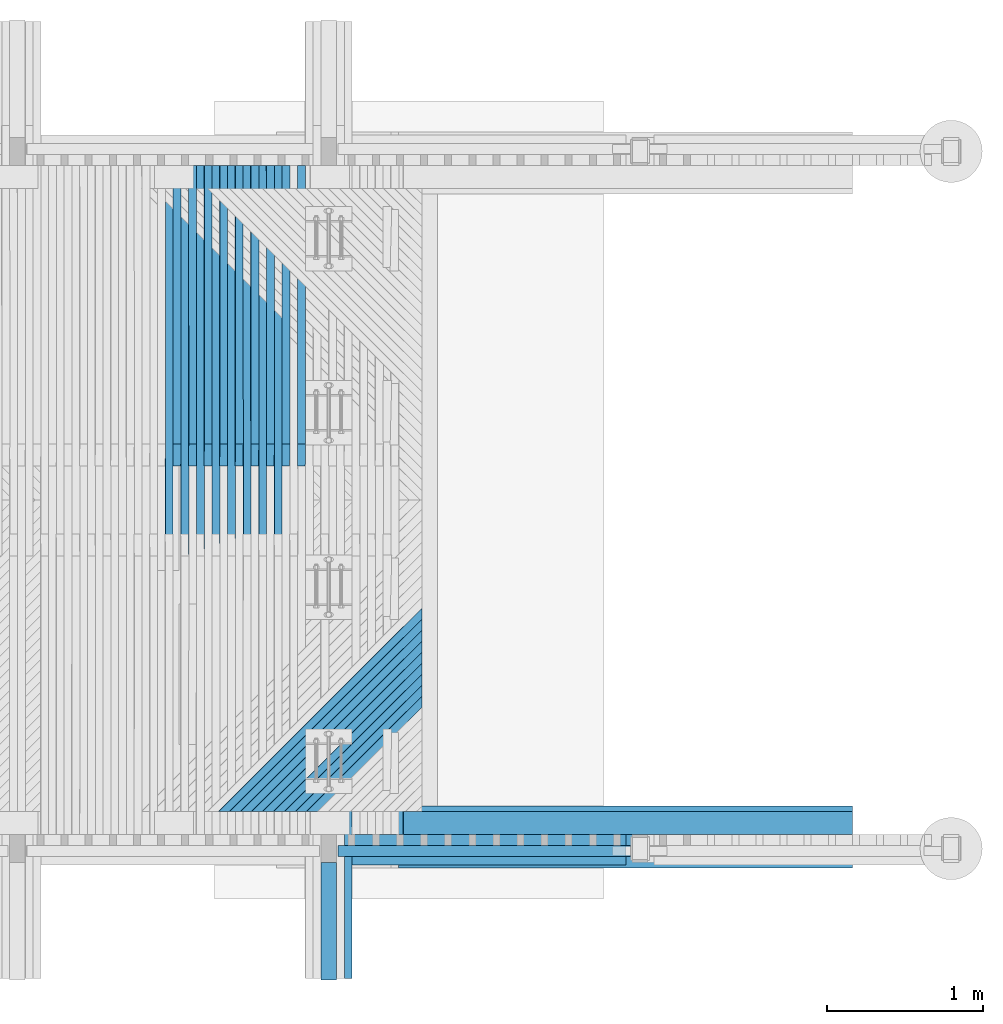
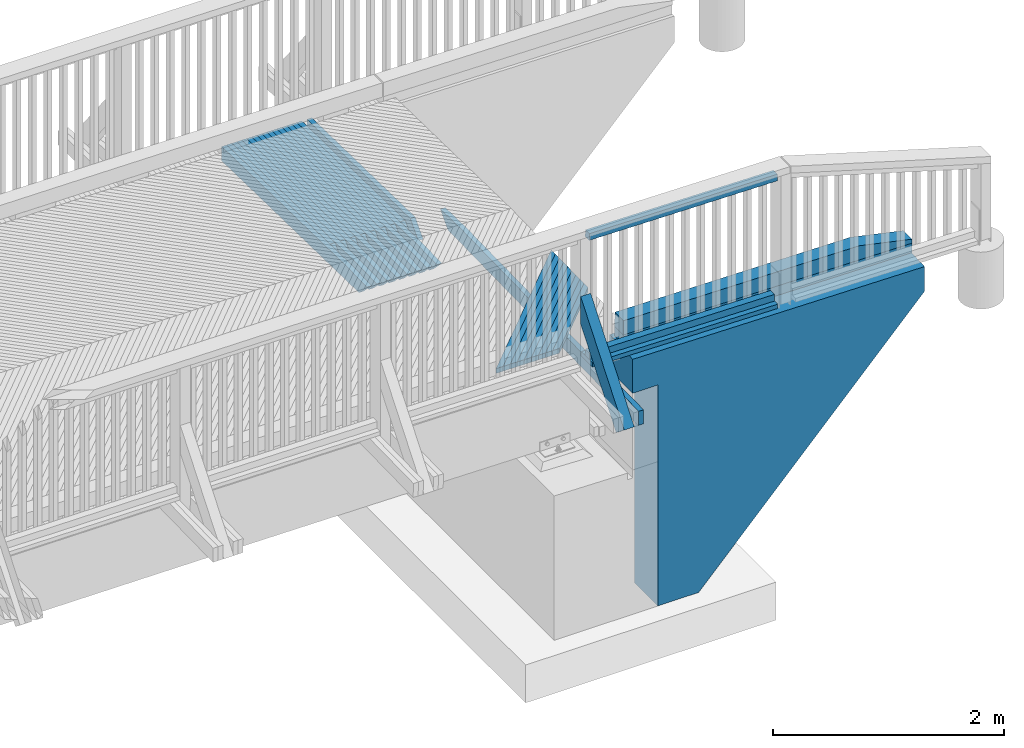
# One storey, part 45 of 53: 33 beams, 1 member.
"""IFC2X3 building model written with IfcOpenShell, lengths in millimetres."""

from ifc_helpers import new_model, si_unit, frame, origin_with_axes, place, context, subcontext, project, spatial, faceted_brep, material, type_object, element, save


model = new_model("IFC2X3")

# Units and contexts
model_context = context("Model", 3, precision=1e-05, world=origin_with_axes())
body_context = subcontext(model_context, "Body", "Model", "MODEL_VIEW")
ifc_project = project(units=[si_unit("LENGTHUNIT", "METRE", prefix="MILLI"), si_unit("AREAUNIT", "SQUARE_METRE"), si_unit("VOLUMEUNIT", "CUBIC_METRE"), si_unit("MASSUNIT", "GRAM", prefix="KILO"), si_unit("TIMEUNIT", "SECOND"), si_unit("PLANEANGLEUNIT", "RADIAN"), si_unit("SOLIDANGLEUNIT", "STERADIAN"), si_unit("THERMODYNAMICTEMPERATUREUNIT", "DEGREE_CELSIUS"), si_unit("LUMINOUSINTENSITYUNIT", "LUMEN")], contexts=[model_context])

# Site, building, storey
site_placement = place(None, origin_with_axes())
site = spatial("IfcSite", under=ifc_project, at=site_placement, Name="Undefined", CompositionType="ELEMENT")
building_placement = place(site_placement, origin_with_axes())
building = spatial("IfcBuilding", under=site, at=building_placement, Name="Undefined", CompositionType="ELEMENT")
storey_placement = place(building_placement, origin_with_axes())
storey = spatial("IfcBuildingStorey", under=building, at=storey_placement, Name="Undefined", CompositionType="ELEMENT", Elevation=0.0)

# Beams
ifc_material_1 = material(Name="TIMBER/Timber_Undefined")
beam_type_1 = type_object("IfcBeamType", Name="150*100", PredefinedType="NOTDEFINED")
beam_1_placement = place(storey_placement, frame((19364.0305880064, 40289.9999999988, 3118.6757290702), z_axis=(0.0, -1.0, 0.0), x_axis=(-0.999904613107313, 0.0, 0.0138117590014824)))
element("IfcBeam", 1, at=beam_1_placement, inside=storey, type_object=beam_type_1, material=ifc_material_1, Name="TÖRMÄYSJOHDE", ObjectType="150*100", context=body_context, shape_type="Brep", body=[
    faceted_brep([(-3.63797880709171e-12, 50.0, -75.0), (-3.63797880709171e-12, 50.0, 75.0), (2885.27521749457, 50.0, 75.0), (2885.27521749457, 50.0, -75.0), (0.0, -49.9999999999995, 75.0), (2885.27521749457, -49.9999999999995, 75.0), (0.0, -49.9999999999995, -75.0), (2885.27521749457, -49.9999999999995, -75.0)], [[[0, 1, 2, 3]], [[1, 4, 5, 2]], [[4, 6, 7, 5]], [[6, 0, 3, 7]], [[5, 7, 3, 2]], [[6, 4, 1, 0]]]),
])
beam_type_2 = type_object("IfcBeamType", Name="150*150", PredefinedType="NOTDEFINED")
beam_2_placement = place(storey_placement, frame((19366.0358819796, 40289.9999999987, 3243.66334439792), z_axis=(0.0, -1.0, 0.0), x_axis=(-0.999904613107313, 0.0, 0.0138117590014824)))
element("IfcBeam", 2, at=beam_2_placement, inside=storey, type_object=beam_type_2, material=ifc_material_1, Name="TÖRMÄYSJOHDE", ObjectType="150*150", context=body_context, shape_type="Brep", body=[
    faceted_brep([(2885.27521749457, -74.9999999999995, 75.0), (2885.27521749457, -74.9999999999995, -75.0), (2885.27521749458, 75.0, -75.0), (2885.27521749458, 75.0, 75.0), (3.63797880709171e-12, 75.0000000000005, -75.0), (3.63797880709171e-12, 75.0000000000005, 75.0), (3.63797880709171e-12, 33.1222400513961, -75.0), (3.63797880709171e-12, 33.1222400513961, 75.0), (529.511118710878, -75.0, 75.0), (529.511118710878, -75.0, -75.0)], [[[0, 1, 2, 3]], [[4, 5, 3, 2]], [[5, 4, 6, 7]], [[0, 3, 5, 7, 8]], [[1, 0, 8, 9]], [[4, 2, 1, 9, 6]], [[8, 7, 6, 9]]]),
])
ifc_material_2 = material(Name="CONCRETE/Concrete_Undefined")
beam_type_3 = type_object("IfcBeamType", Name="2800*400", PredefinedType="NOTDEFINED")
beam_3_placement = place(storey_placement, frame((16430.3400332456, 40200.0, 1712.66804762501), z_axis=(0.0140428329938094, 0.0, 0.999901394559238), x_axis=(0.999901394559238, 0.0, -0.0140428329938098)))
element("IfcBeam", 3, at=beam_3_placement, inside=storey, type_object=beam_type_3, material=ifc_material_2, Name="SIIPIMUURI", ObjectType="2800*400", context=body_context, shape_type="Brep", body=[
    faceted_brep([(5.63100911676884e-07, 200.0, 1400.0), (0.280884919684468, -200.000000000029, 1380.0), (2915.56834818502, -200.0, 1380.0), (2915.28746382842, 200.0, 1400.0), (270.457242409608, 199.999999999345, -54.8754727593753), (270.457242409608, -200.0, -54.8754727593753), (255.29098277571, -200.0, 1025.01803336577), (255.29098277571, 199.999999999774, 1025.01803336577), (288.066954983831, 200.0, -1308.75182153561), (288.066954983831, -200.0, -1308.75182153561), (697.173583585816, 200.0, -1303.00623892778), (697.173583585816, -200.0, -1303.00623892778), (2919.22031514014, 200.0, 1119.96651154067), (2919.22031514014, -200.0, 1119.96651154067), (5.31563413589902, -200.0, 1021.50732511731), (5.31563413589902, 199.999999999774, 1021.50732511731)], [[[0, 1, 2, 3]], [[4, 5, 6, 7]], [[8, 9, 5, 4]], [[10, 11, 9, 8]], [[12, 13, 11, 10]], [[13, 12, 3, 2]], [[14, 6, 5, 9, 11, 13, 2, 1]], [[7, 6, 14, 15]], [[3, 12, 10, 8, 4, 7, 15, 0]], [[15, 14, 1, 0]]]),
])

# Member
member_type = type_object("IfcMemberType", Name="180*100", PredefinedType="NOTDEFINED")
member_placement = place(storey_placement, frame((16000.0064146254, 39351.2316008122, 2900.91791762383), z_axis=(0.0, -0.783926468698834, 0.620853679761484), x_axis=(-4.01699999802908e-06, 0.620853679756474, 0.783926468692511)))
element("IfcMember", 4, at=member_placement, inside=storey, type_object=member_type, material=ifc_material_1, Name="KAIDEPYLVÄS", ObjectType="180*100", context=body_context, shape_type="Brep", body=[
    faceted_brep([(0.0, 50.0, -89.9999999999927), (0.0, 50.0, 90.0), (1214.99480886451, 50.0000000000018, 90.0000000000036), (987.716194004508, 50.0, -89.9999999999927), (0.0, -49.9999999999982, 90.0000000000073), (1214.99440716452, -49.9999999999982, 90.0000000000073), (-3.63797880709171e-12, -49.9999999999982, -90.0), (987.715792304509, -49.9999999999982, -89.9999999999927)], [[[0, 1, 2, 3]], [[1, 4, 5, 2]], [[4, 6, 7, 5]], [[6, 0, 3, 7]], [[5, 7, 3, 2]], [[6, 4, 1, 0]]]),
])

# Beams
beam_type_4 = type_object("IfcBeamType", Name="70*70", PredefinedType="NOTDEFINED")
beam_4_placement = place(storey_placement, frame((17909.4703719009, 40110.0099700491, 3186.87116342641), z_axis=(0.0, -1.0, 0.0), x_axis=(-0.999883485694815, 0.0, 0.0152648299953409)))
element("IfcBeam", 5, at=beam_4_placement, inside=storey, type_object=beam_type_4, material=ifc_material_1, Name="BEAM", ObjectType="70*70", context=body_context, shape_type="Brep", body=[
    faceted_brep([(-3.63797880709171e-12, 35.0000000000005, -35.0), (-3.63797880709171e-12, 35.0000000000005, 35.0), (1850.22135781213, 34.9999999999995, 35.0), (1850.22135781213, 34.9999999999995, -35.0), (-3.63797880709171e-12, -34.9999999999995, 35.0), (1850.22135781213, -35.0, 35.0), (-3.63797880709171e-12, -34.9999999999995, -35.0), (1850.22135781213, -35.0, -35.0)], [[[0, 1, 2, 3]], [[1, 4, 5, 2]], [[4, 6, 7, 5]], [[6, 0, 3, 7]], [[5, 7, 3, 2]], [[6, 4, 1, 0]]]),
])
beam_5_placement = place(storey_placement, frame((17939.4668764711, 40110.0099700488, 4446.41321852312), z_axis=(0.0, -1.0, 0.0), x_axis=(-0.999883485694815, 0.0, 0.0152648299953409)))
element("IfcBeam", 6, at=beam_5_placement, inside=storey, type_object=beam_type_4, material=ifc_material_1, Name="BEAM", ObjectType="70*70", context=body_context, shape_type="Brep", body=[
    faceted_brep([(-3.63797880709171e-12, 35.0000000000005, -35.0), (-3.63797880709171e-12, 35.0000000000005, 35.0), (1880.22135781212, 35.0000000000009, 35.0), (1880.22135781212, 35.0000000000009, -35.0), (-3.63797880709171e-12, -34.9999999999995, 35.0), (1880.22135781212, -35.0, 35.0), (-3.63797880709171e-12, -34.9999999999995, -35.0), (1880.22135781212, -35.0, -35.0)], [[[0, 1, 2, 3]], [[1, 4, 5, 2]], [[4, 6, 7, 5]], [[6, 0, 3, 7]], [[5, 7, 3, 2]], [[6, 4, 1, 0]]]),
])
beam_type_5 = type_object("IfcBeamType", Name="195*45", PredefinedType="NOTDEFINED")
beam_6_placement = place(storey_placement, frame((17909.6611822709, 40117.5099700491, 3129.36970699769), z_axis=(0.0, -1.0, 0.0), x_axis=(-0.999883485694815, 0.0, 0.0152648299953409)))
element("IfcBeam", 7, at=beam_6_placement, inside=storey, type_object=beam_type_5, material=ifc_material_1, Name="BEAM", ObjectType="195*45", context=body_context, shape_type="Brep", body=[
    faceted_brep([(0.0, 22.5, -97.5), (0.0, 22.5, 97.5), (1850.22135781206, 22.5, 97.5), (1850.22135781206, 22.5, -97.5), (0.0, -22.5, 97.5), (1850.22135781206, -22.5, 97.5), (0.0, -22.5, -97.5), (1850.22135781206, -22.5, -97.5)], [[[0, 1, 2, 3]], [[1, 4, 5, 2]], [[4, 6, 7, 5]], [[6, 0, 3, 7]], [[5, 7, 3, 2]], [[6, 4, 1, 0]]]),
])
beam_type_6 = type_object("IfcBeamType", Name="50*50", PredefinedType="NOTDEFINED")
beam_7_placement = place(storey_placement, frame((17895.3052888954, 42364.5001003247, 3154.80495489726), z_axis=(0.706807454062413, -0.706981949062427, -0.0244897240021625), x_axis=(-0.707254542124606, -0.706948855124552, -0.00378535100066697)))
element("IfcBeam", 8, at=beam_7_placement, inside=storey, type_object=beam_type_6, material=ifc_material_1, Name="BEAM", ObjectType="50*50", context=body_context, shape_type="Brep", body=[
    faceted_brep([(2802.92643296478, -25.0, 25.0), (2852.92877373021, -25.0000000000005, -25.0000000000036), (2854.34301907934, 24.9999999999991, -25.0000000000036), (2804.34067830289, 25.0, 25.0000000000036), (1805.95401836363, 24.9999999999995, -24.9999999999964), (1855.92241106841, 24.9999999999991, 25.0), (1856.95717342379, -25.0, 24.9999999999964), (1806.98878071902, -25.0000000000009, -24.9999999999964)], [[[0, 1, 2, 3]], [[3, 2, 4, 5]], [[0, 3, 5, 6]], [[1, 0, 6, 7]], [[2, 1, 7, 4]], [[6, 5, 4, 7]]]),
])
beam_8_placement = place(storey_placement, frame((17824.5905388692, 42364.5001003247, 3155.96311087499), z_axis=(0.706810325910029, -0.706981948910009, -0.0244067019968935), x_axis=(-0.707254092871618, -0.706948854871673, -0.00386842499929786)))
element("IfcBeam", 9, at=beam_8_placement, inside=storey, type_object=beam_type_6, material=ifc_material_1, Name="BEAM", ObjectType="50*50", context=body_context, shape_type="Brep", body=[
    faceted_brep([(2802.92643296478, -25.0, 25.0), (2852.92877373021, -25.0000000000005, -25.0000000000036), (2854.34301907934, 24.9999999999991, -25.0000000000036), (2804.34067830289, 25.0, 25.0000000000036), (1705.97428604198, 24.9999999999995, -25.0000000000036), (1755.94291351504, 24.9999999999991, 24.9999999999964), (1756.96937511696, -25.0, 24.9999999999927), (1707.00074764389, -25.0, -25.0000000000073)], [[[0, 1, 2, 3]], [[3, 2, 4, 5]], [[0, 3, 5, 6]], [[1, 0, 6, 7]], [[2, 1, 7, 4]], [[6, 5, 4, 7]]]),
])
beam_9_placement = place(storey_placement, frame((17753.8756532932, 42364.5001003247, 3157.11296064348), z_axis=(0.706813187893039, -0.706981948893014, -0.0243236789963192), x_axis=(-0.707253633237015, -0.706948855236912, -0.00395150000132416)))
element("IfcBeam", 10, at=beam_9_placement, inside=storey, type_object=beam_type_6, material=ifc_material_1, Name="BEAM", ObjectType="50*50", context=body_context, shape_type="Brep", body=[
    faceted_brep([(2802.92643296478, -25.0, 25.0), (2852.92877373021, -25.0000000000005, -25.0000000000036), (2854.34301907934, 24.9999999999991, -25.0000000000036), (2804.34067830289, 25.0, 25.0000000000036), (1605.99425901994, 25.0, -25.0), (1655.96312129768, 25.0000000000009, 25.0000000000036), (1656.98128205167, -25.0, 25.0000000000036), (1607.01241977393, -24.9999999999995, -25.0000000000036)], [[[0, 1, 2, 3]], [[3, 2, 4, 5]], [[0, 3, 5, 6]], [[1, 0, 6, 7]], [[2, 1, 7, 4]], [[6, 5, 4, 7]]]),
])
beam_10_placement = place(storey_placement, frame((17683.1606331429, 42364.5001003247, 3158.25450418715), z_axis=(0.706816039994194, -0.706981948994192, -0.0242406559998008), x_axis=(-0.707253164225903, -0.706948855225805, -0.0040345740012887)))
element("IfcBeam", 11, at=beam_10_placement, inside=storey, type_object=beam_type_6, material=ifc_material_1, Name="BEAM", ObjectType="50*50", context=body_context, shape_type="Brep", body=[
    faceted_brep([(2802.92643296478, -25.0, 25.0), (2852.92877373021, -25.0000000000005, -25.0000000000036), (2854.34301907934, 24.9999999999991, -25.0000000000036), (2804.34067830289, 25.0, 25.0000000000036), (1506.01393205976, 25.0, -24.9999999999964), (1555.98302910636, 25.0, 25.0000000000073), (1556.99288906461, -25.0000000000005, 25.0000000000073), (1507.02379201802, -25.0, -25.0)], [[[0, 1, 2, 3]], [[3, 2, 4, 5]], [[0, 3, 5, 6]], [[1, 0, 6, 7]], [[2, 1, 7, 4]], [[6, 5, 4, 7]]]),
])
beam_11_placement = place(storey_placement, frame((17612.4454793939, 42364.5001003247, 3159.38774149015), z_axis=(0.706818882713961, -0.706981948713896, -0.0241576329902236), x_axis=(-0.70725268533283, -0.706948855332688, -0.00411764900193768)))
element("IfcBeam", 12, at=beam_11_placement, inside=storey, type_object=beam_type_6, material=ifc_material_1, Name="BEAM", ObjectType="50*50", context=body_context, shape_type="Brep", body=[
    faceted_brep([(2802.92643296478, -25.0, 25.0), (2852.92877373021, -25.0000000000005, -25.0000000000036), (2854.34301907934, 24.9999999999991, -25.0000000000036), (2804.34067830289, 25.0, 25.0000000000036), (1406.03330360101, 25.0, -25.0), (1456.00263545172, 24.9999999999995, 25.0000000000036), (1457.0041945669, -25.0000000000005, 25.0000000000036), (1407.03486271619, -25.0, -25.0)], [[[0, 1, 2, 3]], [[3, 2, 4, 5]], [[0, 3, 5, 6]], [[1, 0, 6, 7]], [[2, 1, 7, 4]], [[6, 5, 4, 7]]]),
])
beam_12_placement = place(storey_placement, frame((17541.730193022, 42364.5001003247, 3160.51267253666), z_axis=(0.706821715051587, -0.706981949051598, -0.0240746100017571), x_axis=(-0.707252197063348, -0.706948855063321, -0.00420072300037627)))
element("IfcBeam", 13, at=beam_12_placement, inside=storey, type_object=beam_type_6, material=ifc_material_1, Name="BEAM", ObjectType="50*50", context=body_context, shape_type="Brep", body=[
    faceted_brep([(2802.92643296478, -25.0, 25.0), (2852.92877373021, -25.0000000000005, -25.0000000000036), (2854.34301907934, 24.9999999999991, -25.0000000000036), (2804.34067830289, 25.0, 25.0000000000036), (1306.05236988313, 25.0000000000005, -25.0000000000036), (1356.02193646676, 25.0, 25.0), (1357.01519479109, -25.0, 25.0), (1307.04562820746, -24.9999999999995, -25.0000000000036)], [[[0, 1, 2, 3]], [[3, 2, 4, 5]], [[0, 3, 5, 6]], [[1, 0, 6, 7]], [[2, 1, 7, 4]], [[6, 5, 4, 7]]]),
])
beam_13_placement = place(storey_placement, frame((17471.0147750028, 42364.5001003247, 3161.6292973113), z_axis=(0.706824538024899, -0.706981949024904, -0.0239915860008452), x_axis=(-0.7072516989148, -0.706948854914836, -0.004283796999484)))
element("IfcBeam", 14, at=beam_13_placement, inside=storey, type_object=beam_type_6, material=ifc_material_1, Name="BEAM", ObjectType="50*50", context=body_context, shape_type="Brep", body=[
    faceted_brep([(2802.92643296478, -25.0, 25.0), (2852.92877373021, -25.0000000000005, -25.0000000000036), (2854.34301907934, 24.9999999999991, -25.0000000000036), (2804.34067830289, 25.0, 25.0000000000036), (1206.07112918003, 24.9999999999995, -25.0), (1256.04093053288, 25.0000000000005, 24.9999999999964), (1257.02588801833, -25.0, 24.9999999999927), (1207.05608666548, -25.0, -25.0)], [[[0, 1, 2, 3]], [[3, 2, 4, 5]], [[0, 3, 5, 6]], [[1, 0, 6, 7]], [[2, 1, 7, 4]], [[6, 5, 4, 7]]]),
])
beam_14_placement = place(storey_placement, frame((17400.2992263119, 42364.5001003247, 3162.73761579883), z_axis=(0.706827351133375, -0.706981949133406, -0.0239085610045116), x_axis=(-0.707251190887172, -0.70694885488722, -0.00436687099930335)))
element("IfcBeam", 15, at=beam_14_placement, inside=storey, type_object=beam_type_6, material=ifc_material_1, Name="BEAM", ObjectType="50*50", context=body_context, shape_type="Brep", body=[
    faceted_brep([(2802.92643296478, -25.0, 25.0), (2852.92877373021, -25.0000000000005, -25.0000000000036), (2854.34301907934, 24.9999999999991, -25.0000000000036), (2804.34067830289, 25.0, 25.0000000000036), (1106.08957869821, 24.9999999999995, -25.0000000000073), (1156.05961482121, 24.9999999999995, 24.9999999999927), (1157.03627142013, -25.0000000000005, 24.9999999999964), (1107.06623529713, -25.0, -25.0000000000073)], [[[0, 1, 2, 3]], [[3, 2, 4, 5]], [[0, 3, 5, 6]], [[1, 0, 6, 7]], [[2, 1, 7, 4]], [[6, 5, 4, 7]]]),
])
beam_15_placement = place(storey_placement, frame((17329.583547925, 42364.5001003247, 3163.83762798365), z_axis=(0.706830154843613, -0.706981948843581, -0.0238255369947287), x_axis=(-0.707250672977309, -0.706948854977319, -0.00444994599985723)))
element("IfcBeam", 16, at=beam_15_placement, inside=storey, type_object=beam_type_6, material=ifc_material_1, Name="BEAM", ObjectType="50*50", context=body_context, shape_type="Brep", body=[
    faceted_brep([(2802.92643296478, -25.0, 25.0), (2852.92877373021, -25.0000000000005, -25.0000000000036), (2854.34301907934, 24.9999999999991, -25.0000000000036), (2804.34067830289, 25.0, 25.0000000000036), (1006.1077155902, 24.9999999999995, -25.0000000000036), (1056.07798651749, 24.9999999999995, 24.9999999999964), (1057.04634223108, -25.0000000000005, 24.9999999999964), (1007.07607130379, -25.0000000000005, -25.0000000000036)], [[[0, 1, 2, 3]], [[3, 2, 4, 5]], [[0, 3, 5, 6]], [[1, 0, 6, 7]], [[2, 1, 7, 4]], [[6, 5, 4, 7]]]),
])
beam_type_7 = type_object("IfcBeamType", Name="150*50", PredefinedType="NOTDEFINED")
beam_16_placement = place(storey_placement, frame((16124.2820196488, 39292.7893475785, 3019.83126809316), z_axis=(0.0134985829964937, -0.0199960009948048, 0.999708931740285), x_axis=(0.0002685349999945, 0.999800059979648, 0.0199941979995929)))
element("IfcBeam", 17, at=beam_16_placement, inside=storey, type_object=beam_type_7, material=ifc_material_1, Name="BEAM", ObjectType="150*50", context=body_context, shape_type="Brep", body=[
    faceted_brep([(1.28420651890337e-08, -24.9999999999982, -74.9999999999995), (-1.28347892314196e-08, -24.9999999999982, 75.0), (-1.28347892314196e-08, 25.0, 75.0), (1.28420651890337e-08, 25.0000000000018, -75.0), (3298.90497884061, 24.9999999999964, -74.9999999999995), (3298.90492234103, -25.0, -74.9999999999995), (3434.49245887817, -25.0, 60.5875365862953), (3074.32497546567, -25.0000000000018, 75.0000000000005), (3074.32503673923, 25.0000000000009, 75.0), (3434.49251531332, 24.9999999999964, 60.5875365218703)], [[[0, 1, 2, 3]], [[0, 3, 4, 5]], [[1, 0, 5, 6, 7]], [[2, 1, 7, 8]], [[4, 3, 2, 8, 9]], [[5, 4, 9, 6]], [[8, 7, 6, 9]]]),
])
beam_17_placement = place(storey_placement, frame((15824.7332279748, 44513.4953923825, 3042.27828425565), z_axis=(0.0130016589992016, 0.0199960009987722, 0.999715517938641), x_axis=(0.000260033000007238, -0.999800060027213, 0.0199943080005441)))
element("IfcBeam", 18, at=beam_17_placement, inside=storey, type_object=beam_type_7, material=ifc_material_1, Name="BEAM", ObjectType="150*50", context=body_context, shape_type="Brep", body=[
    faceted_brep([(1.28420651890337e-08, -24.9999999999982, -74.9999999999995), (-1.28347892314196e-08, -24.9999999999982, 75.0), (-1.28347892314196e-08, 25.0, 75.0), (1.28420651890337e-08, 25.0000000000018, -75.0), (1789.96936408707, 24.9999999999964, 75.0000000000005), (1928.42646328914, 24.9999999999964, -74.9999999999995), (1928.42646353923, -25.0000000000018, -75.0), (1789.96936433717, -25.0000000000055, 74.9999999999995)], [[[0, 1, 2, 3]], [[3, 2, 4, 5]], [[0, 3, 5, 6]], [[1, 0, 6, 7]], [[2, 1, 7, 4]], [[5, 4, 7, 6]]]),
])
beam_18_placement = place(storey_placement, frame((15674.7056284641, 44513.4953923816, 3044.21225802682), z_axis=(0.012669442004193, 0.0199960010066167, 0.999719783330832), x_axis=(0.000253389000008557, -0.99980006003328, 0.0199943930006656)))
element("IfcBeam", 19, at=beam_18_placement, inside=storey, type_object=beam_type_7, material=ifc_material_1, Name="BEAM", ObjectType="150*50", context=body_context, shape_type="Brep", body=[
    faceted_brep([(1.28420651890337e-08, -24.9999999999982, -74.9999999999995), (1.28420651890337e-08, 25.0000000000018, -75.0), (2375.00494422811, 25.0000000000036, -75.0), (2375.0049444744, -24.9999999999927, -74.9999999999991), (-1.28347892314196e-08, -24.9999999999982, 75.0), (-1.28347892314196e-08, 25.0, 75.0), (2150.42515052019, 25.0000000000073, 75.0), (2510.59248715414, 25.0000000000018, 60.5875433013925), (2510.5924871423, -24.9999999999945, 60.5875430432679), (2150.42514405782, -24.9999999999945, 75.0)], [[[0, 1, 2, 3]], [[0, 4, 5, 1]], [[2, 1, 5, 6, 7]], [[3, 2, 7, 8]], [[4, 0, 3, 8, 9]], [[5, 4, 9, 6]], [[8, 7, 6, 9]]]),
])
beam_19_placement = place(storey_placement, frame((15724.7215391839, 44513.4953923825, 3043.57009676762), z_axis=(0.0128355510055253, 0.019996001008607, 0.999717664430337), x_axis=(0.000256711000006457, -0.999800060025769, 0.0199943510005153)))
element("IfcBeam", 20, at=beam_19_placement, inside=storey, type_object=beam_type_7, material=ifc_material_1, Name="BEAM", ObjectType="150*50", context=body_context, shape_type="Brep", body=[
    faceted_brep([(1.28420651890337e-08, -24.9999999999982, -74.9999999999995), (-1.28347892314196e-08, -24.9999999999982, 75.0), (-1.28347892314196e-08, 25.0, 75.0), (1.28420651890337e-08, 25.0000000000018, -75.0), (1789.96936408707, 24.9999999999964, 75.0000000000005), (1928.42646328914, 24.9999999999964, -74.9999999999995), (1928.42646353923, -25.0000000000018, -75.0), (1789.96936433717, -25.0000000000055, 74.9999999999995)], [[[0, 1, 2, 3]], [[3, 2, 4, 5]], [[0, 3, 5, 6]], [[1, 0, 6, 7]], [[2, 1, 7, 4]], [[5, 4, 7, 6]]]),
])
beam_20_placement = place(storey_placement, frame((15574.6936204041, 44513.4953923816, 3045.47914262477), z_axis=(0.0125033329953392, 0.0199960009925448, 0.999721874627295), x_axis=(0.000250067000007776, -0.999800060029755, 0.019994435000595)))
element("IfcBeam", 21, at=beam_20_placement, inside=storey, type_object=beam_type_7, material=ifc_material_1, Name="BEAM", ObjectType="150*50", context=body_context, shape_type="Brep", body=[
    faceted_brep([(1.28420651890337e-08, -24.9999999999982, -74.9999999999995), (1.28420651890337e-08, 25.0000000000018, -75.0), (2375.00494422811, 25.0000000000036, -75.0), (2375.0049444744, -24.9999999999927, -74.9999999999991), (-1.28347892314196e-08, -24.9999999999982, 75.0), (-1.28347892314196e-08, 25.0, 75.0), (2150.42515052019, 25.0000000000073, 75.0), (2510.59248715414, 25.0000000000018, 60.5875433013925), (2510.5924871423, -24.9999999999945, 60.5875430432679), (2150.42514405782, -24.9999999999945, 75.0)], [[[0, 1, 2, 3]], [[0, 4, 5, 1]], [[2, 1, 5, 6, 7]], [[3, 2, 7, 8]], [[4, 0, 3, 8, 9]], [[5, 4, 9, 6]], [[8, 7, 6, 9]]]),
])
beam_21_placement = place(storey_placement, frame((15624.7096371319, 44513.4953923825, 3044.8452917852), z_axis=(0.012669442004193, 0.0199960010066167, 0.999719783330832), x_axis=(0.000253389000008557, -0.99980006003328, 0.0199943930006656)))
element("IfcBeam", 22, at=beam_21_placement, inside=storey, type_object=beam_type_7, material=ifc_material_1, Name="BEAM", ObjectType="150*50", context=body_context, shape_type="Brep", body=[
    faceted_brep([(1.28420651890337e-08, -24.9999999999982, -74.9999999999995), (-1.28347892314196e-08, -24.9999999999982, 75.0), (-1.28347892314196e-08, 25.0, 75.0), (1.28420651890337e-08, 25.0000000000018, -75.0), (1789.96936408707, 24.9999999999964, 75.0000000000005), (1928.42646328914, 24.9999999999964, -74.9999999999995), (1928.42646353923, -25.0000000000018, -75.0), (1789.96936433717, -25.0000000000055, 74.9999999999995)], [[[0, 1, 2, 3]], [[3, 2, 4, 5]], [[0, 3, 5, 6]], [[1, 0, 6, 7]], [[2, 1, 7, 4]], [[5, 4, 7, 6]]]),
])
beam_22_placement = place(storey_placement, frame((15474.6814032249, 44513.4953923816, 3046.72940967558), z_axis=(0.0123372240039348, 0.0199960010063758, 0.999723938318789), x_axis=(0.000246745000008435, -0.999800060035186, 0.0199944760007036)))
element("IfcBeam", 23, at=beam_22_placement, inside=storey, type_object=beam_type_7, material=ifc_material_1, Name="BEAM", ObjectType="150*50", context=body_context, shape_type="Brep", body=[
    faceted_brep([(1.28420651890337e-08, -24.9999999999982, -74.9999999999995), (1.28420651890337e-08, 25.0000000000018, -75.0), (2375.00494422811, 25.0000000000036, -75.0), (2375.0049444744, -24.9999999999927, -74.9999999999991), (-1.28347892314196e-08, -24.9999999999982, 75.0), (-1.28347892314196e-08, 25.0, 75.0), (2150.42515052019, 25.0000000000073, 75.0), (2510.59248715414, 25.0000000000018, 60.5875433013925), (2510.5924871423, -24.9999999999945, 60.5875430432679), (2150.42514405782, -24.9999999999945, 75.0)], [[[0, 1, 2, 3]], [[0, 4, 5, 1]], [[2, 1, 5, 6, 7]], [[3, 2, 7, 8]], [[4, 0, 3, 8, 9]], [[5, 4, 9, 6]], [[8, 7, 6, 9]]]),
])
beam_23_placement = place(storey_placement, frame((15524.6975245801, 44513.4953923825, 3046.10386927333), z_axis=(0.0125033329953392, 0.0199960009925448, 0.999721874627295), x_axis=(0.000250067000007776, -0.999800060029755, 0.019994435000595)))
element("IfcBeam", 24, at=beam_23_placement, inside=storey, type_object=beam_type_7, material=ifc_material_1, Name="BEAM", ObjectType="150*50", context=body_context, shape_type="Brep", body=[
    faceted_brep([(1.28420651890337e-08, -24.9999999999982, -74.9999999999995), (-1.28347892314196e-08, -24.9999999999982, 75.0), (-1.28347892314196e-08, 25.0, 75.0), (1.28420651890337e-08, 25.0000000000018, -75.0), (1789.96936408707, 24.9999999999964, 75.0000000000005), (1928.42646328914, 24.9999999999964, -74.9999999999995), (1928.42646353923, -25.0000000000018, -75.0), (1789.96936433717, -25.0000000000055, 74.9999999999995)], [[[0, 1, 2, 3]], [[3, 2, 4, 5]], [[0, 3, 5, 6]], [[1, 0, 6, 7]], [[2, 1, 7, 4]], [[5, 4, 7, 6]]]),
])
beam_24_placement = place(storey_placement, frame((15374.6689796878, 44513.4953923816, 3047.96305914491), z_axis=(0.0121711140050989, 0.0199960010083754, 0.999725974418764), x_axis=(0.000243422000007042, -0.999800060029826, 0.0199945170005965)))
element("IfcBeam", 25, at=beam_24_placement, inside=storey, type_object=beam_type_7, material=ifc_material_1, Name="BEAM", ObjectType="150*50", context=body_context, shape_type="Brep", body=[
    faceted_brep([(1.28420651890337e-08, -24.9999999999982, -74.9999999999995), (1.28420651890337e-08, 25.0000000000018, -75.0), (2375.00494422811, 25.0000000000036, -75.0), (2375.0049444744, -24.9999999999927, -74.9999999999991), (-1.28347892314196e-08, -24.9999999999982, 75.0), (-1.28347892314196e-08, 25.0, 75.0), (2150.42515052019, 25.0000000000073, 75.0), (2510.59248715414, 25.0000000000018, 60.5875433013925), (2510.5924871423, -24.9999999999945, 60.5875430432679), (2150.42514405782, -24.9999999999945, 75.0)], [[[0, 1, 2, 3]], [[0, 4, 5, 1]], [[2, 1, 5, 6, 7]], [[3, 2, 7, 8]], [[4, 0, 3, 8, 9]], [[5, 4, 9, 6]], [[8, 7, 6, 9]]]),
])
beam_25_placement = place(storey_placement, frame((15424.6852042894, 44513.4953923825, 3047.34582919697), z_axis=(0.0123372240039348, 0.0199960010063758, 0.999723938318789), x_axis=(0.000246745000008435, -0.999800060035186, 0.0199944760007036)))
element("IfcBeam", 26, at=beam_25_placement, inside=storey, type_object=beam_type_7, material=ifc_material_1, Name="BEAM", ObjectType="150*50", context=body_context, shape_type="Brep", body=[
    faceted_brep([(1.28420651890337e-08, -24.9999999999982, -74.9999999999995), (-1.28347892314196e-08, -24.9999999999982, 75.0), (-1.28347892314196e-08, 25.0, 75.0), (1.28420651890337e-08, 25.0000000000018, -75.0), (1789.96936408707, 24.9999999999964, 75.0000000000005), (1928.42646328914, 24.9999999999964, -74.9999999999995), (1928.42646353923, -25.0000000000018, -75.0), (1789.96936433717, -25.0000000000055, 74.9999999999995)], [[[0, 1, 2, 3]], [[3, 2, 4, 5]], [[0, 3, 5, 6]], [[1, 0, 6, 7]], [[2, 1, 7, 4]], [[5, 4, 7, 6]]]),
])
beam_26_placement = place(storey_placement, frame((15274.6563525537, 44513.4953923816, 3049.1800909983), z_axis=(0.0120050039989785, 0.0199960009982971, 0.999727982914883), x_axis=(0.000240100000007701, -0.999800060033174, 0.0199945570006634)))
element("IfcBeam", 27, at=beam_26_placement, inside=storey, type_object=beam_type_7, material=ifc_material_1, Name="BEAM", ObjectType="150*50", context=body_context, shape_type="Brep", body=[
    faceted_brep([(1.28420651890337e-08, -24.9999999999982, -74.9999999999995), (1.28420651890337e-08, 25.0000000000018, -75.0), (2375.00494422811, 25.0000000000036, -75.0), (2375.0049444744, -24.9999999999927, -74.9999999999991), (-1.28347892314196e-08, -24.9999999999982, 75.0), (-1.28347892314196e-08, 25.0, 75.0), (2150.42515052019, 25.0000000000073, 75.0), (2510.59248715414, 25.0000000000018, 60.5875433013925), (2510.5924871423, -24.9999999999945, 60.5875430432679), (2150.42514405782, -24.9999999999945, 75.0)], [[[0, 1, 2, 3]], [[0, 4, 5, 1]], [[2, 1, 5, 6, 7]], [[3, 2, 7, 8]], [[4, 0, 3, 8, 9]], [[5, 4, 9, 6]], [[8, 7, 6, 9]]]),
])
beam_27_placement = place(storey_placement, frame((15324.672679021, 44513.4953923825, 3048.57117152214), z_axis=(0.0121711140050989, 0.0199960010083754, 0.999725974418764), x_axis=(0.000243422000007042, -0.999800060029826, 0.0199945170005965)))
element("IfcBeam", 28, at=beam_27_placement, inside=storey, type_object=beam_type_7, material=ifc_material_1, Name="BEAM", ObjectType="150*50", context=body_context, shape_type="Brep", body=[
    faceted_brep([(1.28420651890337e-08, -24.9999999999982, -74.9999999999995), (-1.28347892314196e-08, -24.9999999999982, 75.0), (-1.28347892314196e-08, 25.0, 75.0), (1.28420651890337e-08, 25.0000000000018, -75.0), (1789.96936408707, 24.9999999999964, 75.0000000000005), (1928.42646328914, 24.9999999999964, -74.9999999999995), (1928.42646353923, -25.0000000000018, -75.0), (1789.96936433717, -25.0000000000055, 74.9999999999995)], [[[0, 1, 2, 3]], [[3, 2, 4, 5]], [[0, 3, 5, 6]], [[1, 0, 6, 7]], [[2, 1, 7, 4]], [[5, 4, 7, 6]]]),
])
beam_28_placement = place(storey_placement, frame((15174.6435245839, 44513.4953923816, 3050.38050520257), z_axis=(0.0118388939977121, 0.0199960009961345, 0.999729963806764), x_axis=(0.0002367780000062, -0.999800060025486, 0.0199945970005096)))
element("IfcBeam", 29, at=beam_28_placement, inside=storey, type_object=beam_type_7, material=ifc_material_1, Name="BEAM", ObjectType="150*50", context=body_context, shape_type="Brep", body=[
    faceted_brep([(1.28420651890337e-08, -24.9999999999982, -74.9999999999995), (1.28420651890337e-08, 25.0000000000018, -75.0), (2375.00494422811, 25.0000000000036, -75.0), (2375.0049444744, -24.9999999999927, -74.9999999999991), (-1.28347892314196e-08, -24.9999999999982, 75.0), (-1.28347892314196e-08, 25.0, 75.0), (2150.42515052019, 25.0000000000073, 75.0), (2510.59248715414, 25.0000000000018, 60.5875433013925), (2510.5924871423, -24.9999999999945, 60.5875430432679), (2150.42514405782, -24.9999999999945, 75.0)], [[[0, 1, 2, 3]], [[0, 4, 5, 1]], [[2, 1, 5, 6, 7]], [[3, 2, 7, 8]], [[4, 0, 3, 8, 9]], [[5, 4, 9, 6]], [[8, 7, 6, 9]]]),
])
beam_29_placement = place(storey_placement, frame((15224.659951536, 44513.4953923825, 3049.77989621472), z_axis=(0.0120050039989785, 0.0199960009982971, 0.999727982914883), x_axis=(0.000240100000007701, -0.999800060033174, 0.0199945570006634)))
element("IfcBeam", 30, at=beam_29_placement, inside=storey, type_object=beam_type_7, material=ifc_material_1, Name="BEAM", ObjectType="150*50", context=body_context, shape_type="Brep", body=[
    faceted_brep([(1.28420651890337e-08, -24.9999999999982, -74.9999999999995), (-1.28347892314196e-08, -24.9999999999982, 75.0), (-1.28347892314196e-08, 25.0, 75.0), (1.28420651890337e-08, 25.0000000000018, -75.0), (1789.96936408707, 24.9999999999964, 75.0000000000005), (1928.42646328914, 24.9999999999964, -74.9999999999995), (1928.42646353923, -25.0000000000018, -75.0), (1789.96936433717, -25.0000000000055, 74.9999999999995)], [[[0, 1, 2, 3]], [[3, 2, 4, 5]], [[0, 3, 5, 6]], [[1, 0, 6, 7]], [[2, 1, 7, 4]], [[5, 4, 7, 6]]]),
])
beam_30_placement = place(storey_placement, frame((15074.6304985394, 44513.4953923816, 3051.56430172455), z_axis=(0.0116727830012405, 0.0199960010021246, 0.999731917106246), x_axis=(0.000233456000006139, -0.999800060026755, 0.0199946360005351)))
element("IfcBeam", 31, at=beam_30_placement, inside=storey, type_object=beam_type_7, material=ifc_material_1, Name="BEAM", ObjectType="150*50", context=body_context, shape_type="Brep", body=[
    faceted_brep([(1.28420651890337e-08, -24.9999999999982, -74.9999999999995), (1.28420651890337e-08, 25.0000000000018, -75.0), (2375.00494422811, 25.0000000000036, -75.0), (2375.0049444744, -24.9999999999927, -74.9999999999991), (-1.28347892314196e-08, -24.9999999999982, 75.0), (-1.28347892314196e-08, 25.0, 75.0), (2150.42515052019, 25.0000000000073, 75.0), (2510.59248715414, 25.0000000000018, 60.5875433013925), (2510.5924871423, -24.9999999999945, 60.5875430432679), (2150.42514405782, -24.9999999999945, 75.0)], [[[0, 1, 2, 3]], [[0, 4, 5, 1]], [[2, 1, 5, 6, 7]], [[3, 2, 7, 8]], [[4, 0, 3, 8, 9]], [[5, 4, 9, 6]], [[8, 7, 6, 9]]]),
])
beam_31_placement = place(storey_placement, frame((15124.6470245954, 44513.4953923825, 3050.97200324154), z_axis=(0.0118388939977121, 0.0199960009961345, 0.999729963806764), x_axis=(0.0002367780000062, -0.999800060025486, 0.0199945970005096)))
element("IfcBeam", 32, at=beam_31_placement, inside=storey, type_object=beam_type_7, material=ifc_material_1, Name="BEAM", ObjectType="150*50", context=body_context, shape_type="Brep", body=[
    faceted_brep([(1.28420651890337e-08, -24.9999999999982, -74.9999999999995), (-1.28347892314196e-08, -24.9999999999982, 75.0), (-1.28347892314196e-08, 25.0, 75.0), (1.28420651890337e-08, 25.0000000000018, -75.0), (1789.96936408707, 24.9999999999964, 75.0000000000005), (1928.42646328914, 24.9999999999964, -74.9999999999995), (1928.42646353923, -25.0000000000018, -75.0), (1789.96936433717, -25.0000000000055, 74.9999999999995)], [[[0, 1, 2, 3]], [[3, 2, 4, 5]], [[0, 3, 5, 6]], [[1, 0, 6, 7]], [[2, 1, 7, 4]], [[5, 4, 7, 6]]]),
])
beam_32_placement = place(storey_placement, frame((14974.6172771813, 44513.4953923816, 3052.73148053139), z_axis=(0.0115066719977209, 0.0199960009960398, 0.999733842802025), x_axis=(0.00023013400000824, -0.999800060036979, 0.0199946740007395)))
element("IfcBeam", 33, at=beam_32_placement, inside=storey, type_object=beam_type_7, material=ifc_material_1, Name="BEAM", ObjectType="150*50", context=body_context, shape_type="Brep", body=[
    faceted_brep([(1.28420651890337e-08, -24.9999999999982, -74.9999999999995), (1.28420651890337e-08, 25.0000000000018, -75.0), (2375.00494422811, 25.0000000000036, -75.0), (2375.0049444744, -24.9999999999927, -74.9999999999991), (-1.28347892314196e-08, -24.9999999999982, 75.0), (-1.28347892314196e-08, 25.0, 75.0), (2150.42515052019, 25.0000000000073, 75.0), (2510.59248715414, 25.0000000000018, 60.5875433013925), (2510.5924871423, -24.9999999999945, 60.5875430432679), (2150.42514405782, -24.9999999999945, 75.0)], [[[0, 1, 2, 3]], [[0, 4, 5, 1]], [[2, 1, 5, 6, 7]], [[3, 2, 7, 8]], [[4, 0, 3, 8, 9]], [[5, 4, 9, 6]], [[8, 7, 6, 9]]]),
])
beam_33_placement = place(storey_placement, frame((15024.6339009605, 44513.4953923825, 3052.14749256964), z_axis=(0.0116727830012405, 0.0199960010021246, 0.999731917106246), x_axis=(0.000233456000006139, -0.999800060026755, 0.0199946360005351)))
element("IfcBeam", 34, at=beam_33_placement, inside=storey, type_object=beam_type_7, material=ifc_material_1, Name="BEAM", ObjectType="150*50", context=body_context, shape_type="Brep", body=[
    faceted_brep([(1.28420651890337e-08, -24.9999999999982, -74.9999999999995), (-1.28347892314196e-08, -24.9999999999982, 75.0), (-1.28347892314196e-08, 25.0, 75.0), (1.28420651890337e-08, 25.0000000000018, -75.0), (1789.96936408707, 24.9999999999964, 75.0000000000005), (1928.42646328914, 24.9999999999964, -74.9999999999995), (1928.42646353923, -25.0000000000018, -75.0), (1789.96936433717, -25.0000000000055, 74.9999999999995)], [[[0, 1, 2, 3]], [[3, 2, 4, 5]], [[0, 3, 5, 6]], [[1, 0, 6, 7]], [[2, 1, 7, 4]], [[5, 4, 7, 6]]]),
])

save(model, "model.ifc")
